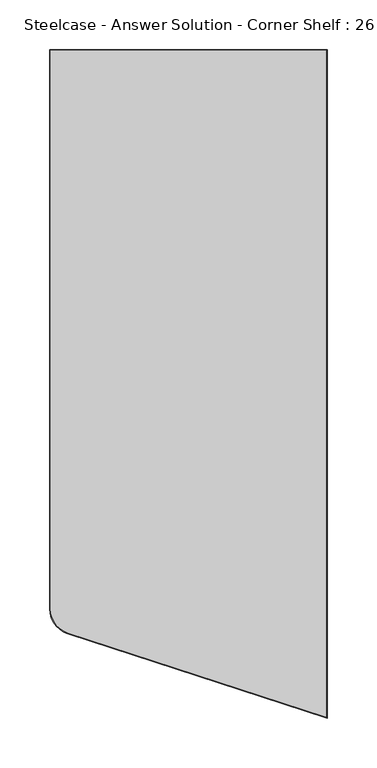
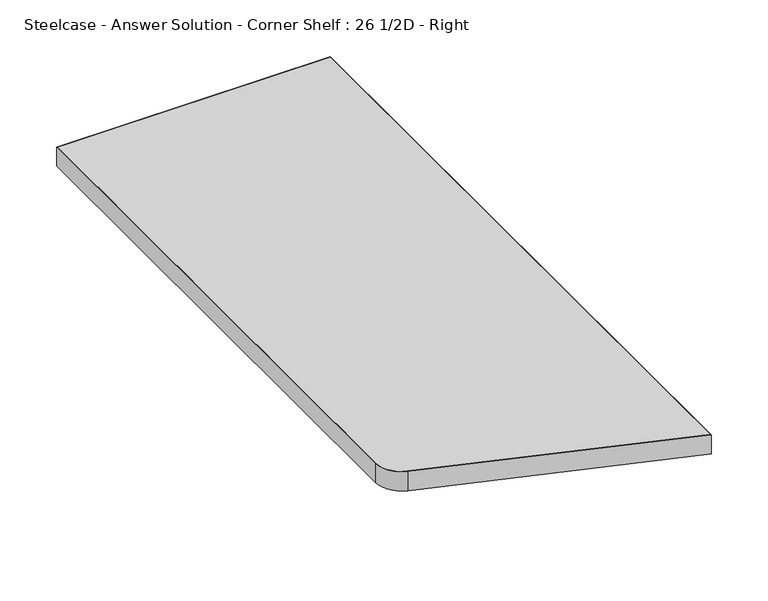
"""IFC4 building model written with IfcOpenShell, lengths in millimetres: furniture geometry, Steelcase - Answer Solution - Corner Shelf : 26 1/2D - Right."""

from ifc_helpers import new_model, si_unit, point, frame, frame_2d, origin, place, context, project, spatial, polyline, circle_curve, trimmed, segment, composite_curve, outline, extrude, source, transform, mapped, element, save


def steelcase_answer_solution_corner_shelf_26_1_2d_right_eea9e4c0(model_context):
    return source(origin(), model_context, "Body", "SweptSolid", [
        extrude(outline(composite_curve([segment(polyline([(-113.538, 172.212), (164.338, 172.212), (164.338, -499.1130655), (-95.6345824, -414.4945056)]), True, "CONTINUOUS"), segment(trimmed(circle_curve(frame_2d((-87.63, -389.8540688)), 25.908), [point((-95.6345824, -414.4945056))], [point((-113.538, -389.8540688))], False, "CARTESIAN"), True, "CONTINUOUS"), segment(polyline([(-113.538, -389.8540688), (-113.538, 172.212)]), True, "CONTINUOUS")], self_intersect=False)), frame((0.0, 0.0, 723.9), z_axis=(0.0, 0.0, 1.0), x_axis=(1.0, 0.0, 0.0)), (0.0, 0.0, 1.0), 20.574),
        extrude(outline(composite_curve([segment(polyline([(-114.3436562, 173.0176563), (165.1436562, 173.0176563), (165.1436562, -500.2225581), (-95.8834994, -415.2607447)]), True, "CONTINUOUS"), segment(trimmed(circle_curve(frame_2d((-87.63, -389.8540688)), 26.7136563), [point((-95.8834994, -415.2607447))], [point((-114.3436562, -389.8540688))], False, "CARTESIAN"), True, "CONTINUOUS"), segment(polyline([(-114.3436562, -389.8540688), (-114.3436562, 173.0176563)]), True, "CONTINUOUS")], self_intersect=False), holes=[composite_curve([segment(polyline([(-95.6345824, -414.4945056), (164.338, -499.1130655), (164.338, 172.212), (-113.538, 172.212), (-113.538, -389.8540688)]), True, "CONTINUOUS"), segment(trimmed(circle_curve(frame_2d((-87.63, -389.8540688)), 25.908), [point((-113.538, -389.8540688))], [point((-95.6345824, -414.4945056))], True, "CARTESIAN"), True, "CONTINUOUS")], self_intersect=False)]), frame((0.0, 0.0, 723.9), z_axis=(0.0, 0.0, 1.0), x_axis=(1.0, 0.0, 0.0)), (0.0, 0.0, 1.0), 20.574),
    ])


if __name__ == "__main__":
    model = new_model("IFC4")
    model_context = context("Model", 3, world=origin())
    ifc_project = project(units=[si_unit("LENGTHUNIT", "METRE", prefix="MILLI")], contexts=[model_context])
    site = spatial("IfcSite", under=ifc_project)
    building = spatial("IfcBuilding", under=site)
    placement = place(None, origin())
    steelcase_answer_solution_corner_shelf_26_1_2d_right_shape = steelcase_answer_solution_corner_shelf_26_1_2d_right_eea9e4c0(model_context)
    element("IfcFurniture", 1, ObjectType="Steelcase - Answer Solution - Corner Shelf : 26 1/2D - Right", at=placement, inside=building, context=model_context, shape_type="MappedRepresentation", body=[
        mapped(steelcase_answer_solution_corner_shelf_26_1_2d_right_shape, transform((0.0, 0.0, 0.0), x_axis=(1.0, 0.0, 0.0), y_axis=(0.0, 1.0, 0.0), z_axis=(0.0, 0.0, 1.0))),
    ])
    save(model, "model.ifc")
